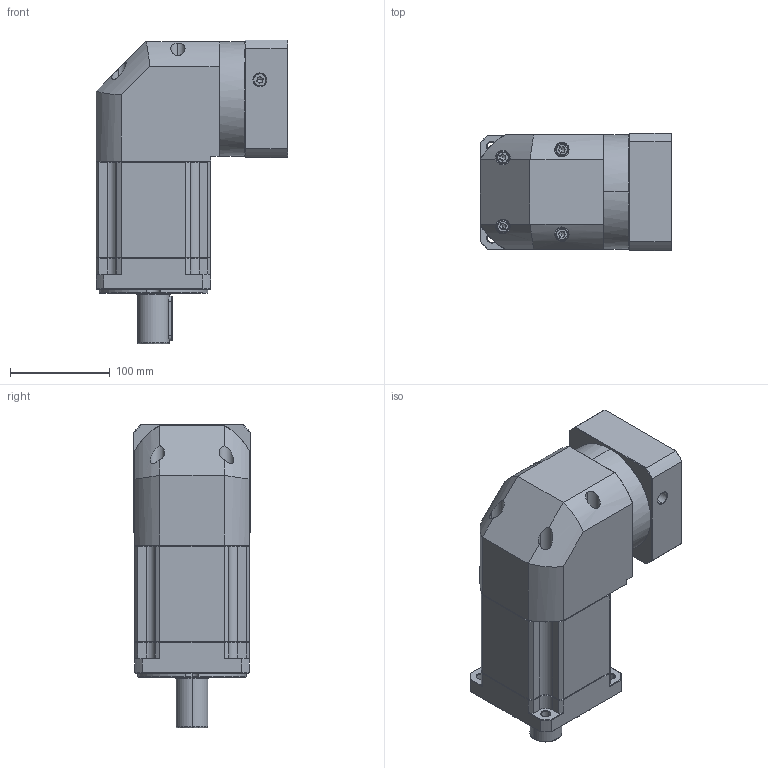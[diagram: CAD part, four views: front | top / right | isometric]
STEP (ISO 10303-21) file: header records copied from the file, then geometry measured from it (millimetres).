
FILE_DESCRIPTION (( 'STEP AP214' ), '1' );
FILE_NAME ('ZBR115A-D32-L3-P2-19-95-130-M8.step', '2023-08-26T12:40:10', ( '' ), ( '' ), 'SwSTEP 2.0', 'SolidWorks 2016', '' );
FILE_SCHEMA (( 'AUTOMOTIVE_DESIGN' ));
Length unit declared in the file: millimetre
Products named in the file (1): ZBR115A-D32-L3-P2-19-95-130-M8
Bounding box: 192.4 x 118 x 305 mm (x, y, z)
Volume: 3636545.5 mm3; surface area: 271858 mm2
Topology: 6 solids, 6 shells, 2379 faces, 6240 edges, 3965 vertices
Faces by surface type: plane 1139, cylinder 439, bspline 424, cone 369, torus 8
Entity records: 128335 total; most frequent: CARTESIAN_POINT 47171, ORIENTED_EDGE 12420, DIRECTION 9794, EDGE_CURVE 6210, LINE 3990, VECTOR 3990, VERTEX_POINT 3965, AXIS2_PLACEMENT_3D 2902
